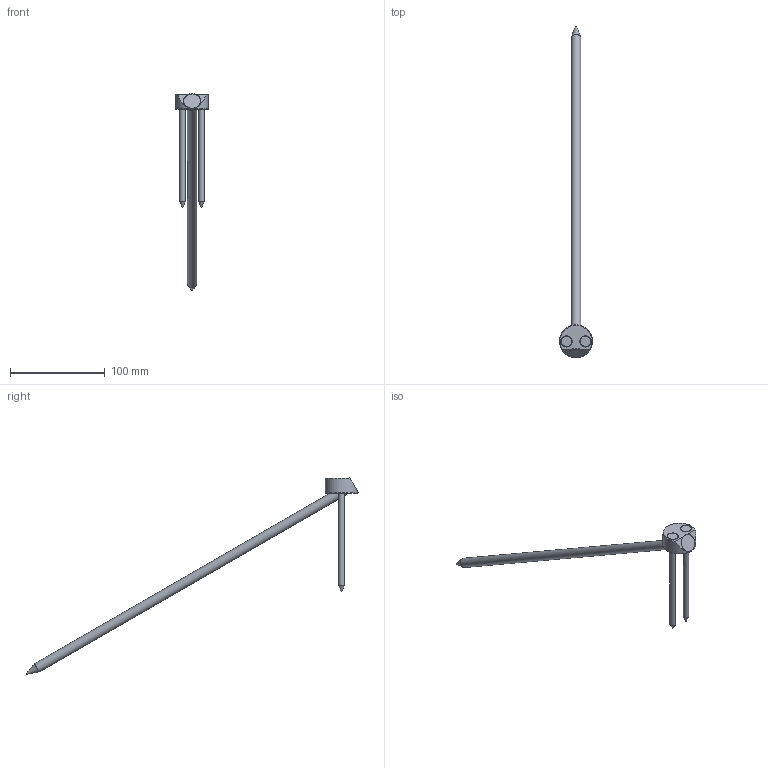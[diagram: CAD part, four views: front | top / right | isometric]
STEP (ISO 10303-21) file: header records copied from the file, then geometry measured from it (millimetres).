
FILE_DESCRIPTION(/* description */ ('Unknown'),/* implementation_level */ '2;1');
FILE_NAME(/* name */ 'T-JOINT_D35_W30_2xSK 6x120_1xSK 10x400',/* time_stamp */ '2022-02-03T11:09:20+01:00',/* author */ ('Unknown'),/* organization */ ('Unknown'),/* preprocessor_version */ 'ST-DEVELOPER v16.7',/* originating_system */ 'Solid Edge',/* authorisation */ 'Unknown');
FILE_SCHEMA (('AUTOMOTIVE_DESIGN {1 0 10303 214 3 1 1}'));
Length unit declared in the file: millimetre
Products named in the file (4): T-Joint_D35_W30_2xSK6x120_1xSK10x400; T-Joint_D35_W30; SK Schraube 6x120_ohne_Gewinde; SK Schraube 10x400_ohne_Gewinde_22042020
Assembly tree (4 placements, depth 2):
  T-Joint_D35_W30_2xSK6x120_1xSK10x400
    T-Joint_D35_W30
    SK Schraube 6x120_ohne_Gewinde  x2
    SK Schraube 10x400_ohne_Gewinde_22042020
Bounding box: 34.79 x 351.18 x 208.2 mm (x, y, z)
Volume: 48483.4 mm3; surface area: 21746.4 mm2
Topology: 4 solids, 4 shells, 35 faces, 67 edges, 41 vertices
Faces by surface type: cylinder 12, plane 11, cone 9, torus 3
Full cylindrical faces by diameter (mm): 6 x2, 6.2 x2, 6.3 x1, 10 x2, 11 x2, 12.5 x1, 18 x1, 34.8 x1
Entity records: 738 total; most frequent: DIRECTION 128, CARTESIAN_POINT 111, ORIENTED_EDGE 68, AXIS2_PLACEMENT_3D 63, EDGE_LOOP 55, FACE_BOUND 55, EDGE_CURVE 34, VERTEX_POINT 31
